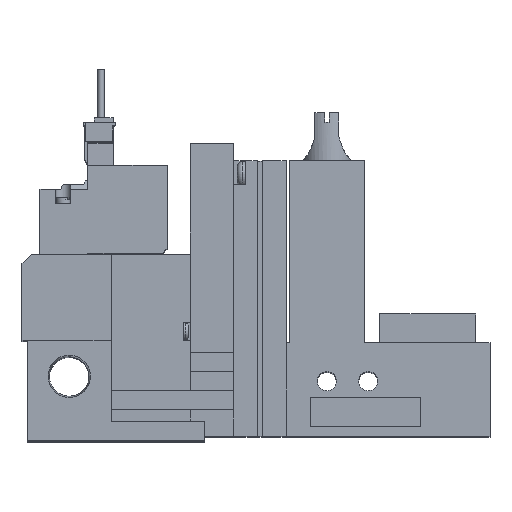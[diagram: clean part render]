
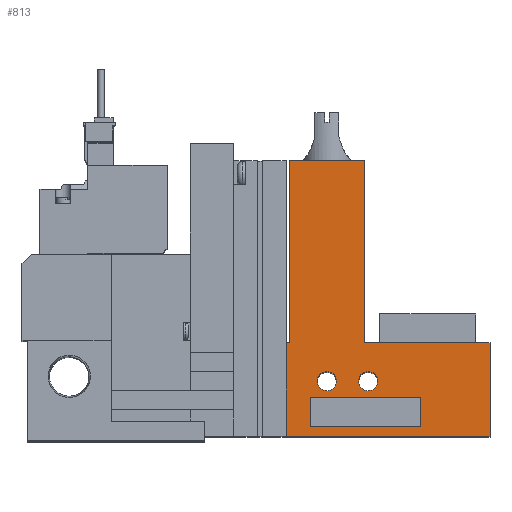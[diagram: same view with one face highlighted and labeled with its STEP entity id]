
A CAD part, top view. The second image highlights one B-rep face of the part: STEP entity #813.
In plain terms, the highlighted planar face has unit normal (0, 0, 1).
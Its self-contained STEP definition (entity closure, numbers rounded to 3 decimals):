
#813=ADVANCED_FACE('',(#1598,#1599,#1600,#1601),#1602,.T.);
#1598=FACE_BOUND('',#2722,.T.);
#1599=FACE_BOUND('',#2723,.T.);
#1600=FACE_BOUND('',#2724,.T.);
#1601=FACE_OUTER_BOUND('',#2725,.T.);
#1602=PLANE('',#2726);
#2722=EDGE_LOOP('',(#5498,#5499,#5500,#5501));
#2723=EDGE_LOOP('',(#5502));
#2724=EDGE_LOOP('',(#5503));
#2725=EDGE_LOOP('',(#5504,#5505,#5506,#5507,#5508,#5509,#5510,#5511));
#2726=AXIS2_PLACEMENT_3D('',#5512,#5513,#5514);
#5498=ORIENTED_EDGE('',*,*,#7678,.T.);
#5499=ORIENTED_EDGE('',*,*,#7653,.T.);
#5500=ORIENTED_EDGE('',*,*,#7796,.T.);
#5501=ORIENTED_EDGE('',*,*,#7797,.T.);
#5502=ORIENTED_EDGE('',*,*,#7770,.T.);
#5503=ORIENTED_EDGE('',*,*,#7798,.T.);
#5504=ORIENTED_EDGE('',*,*,#7799,.F.);
#5505=ORIENTED_EDGE('',*,*,#7723,.T.);
#5506=ORIENTED_EDGE('',*,*,#7800,.T.);
#5507=ORIENTED_EDGE('',*,*,#7801,.T.);
#5508=ORIENTED_EDGE('',*,*,#7802,.T.);
#5509=ORIENTED_EDGE('',*,*,#7803,.T.);
#5510=ORIENTED_EDGE('',*,*,#7775,.T.);
#5511=ORIENTED_EDGE('',*,*,#7804,.T.);
#5512=CARTESIAN_POINT('',(0.0,0.0,10.0));
#5513=DIRECTION('',(0.0,0.0,1.0));
#5514=DIRECTION('',(1.0,0.0,0.0));
#7653=EDGE_CURVE('',#9248,#9253,#9255,.T.);
#7678=EDGE_CURVE('',#9296,#9248,#9300,.T.);
#7723=EDGE_CURVE('',#9383,#9381,#9384,.T.);
#7770=EDGE_CURVE('',#9466,#9466,#9467,.T.);
#7775=EDGE_CURVE('',#9476,#9474,#9477,.T.);
#7796=EDGE_CURVE('',#9253,#9509,#9510,.T.);
#7797=EDGE_CURVE('',#9509,#9296,#9511,.T.);
#7798=EDGE_CURVE('',#9512,#9512,#9513,.T.);
#7799=EDGE_CURVE('',#9383,#9514,#9515,.T.);
#7800=EDGE_CURVE('',#9381,#9516,#9517,.T.);
#7801=EDGE_CURVE('',#9516,#9518,#9519,.T.);
#7802=EDGE_CURVE('',#9518,#9520,#9521,.T.);
#7803=EDGE_CURVE('',#9520,#9476,#9522,.T.);
#7804=EDGE_CURVE('',#9474,#9514,#9523,.T.);
#9248=VERTEX_POINT('',#11874);
#9253=VERTEX_POINT('',#11881);
#9255=LINE('',#11884,#11885);
#9296=VERTEX_POINT('',#11944);
#9300=LINE('',#11950,#11951);
#9381=VERTEX_POINT('',#12073);
#9383=VERTEX_POINT('',#12076);
#9384=LINE('',#12077,#12078);
#9466=VERTEX_POINT('',#12201);
#9467=CIRCLE('',#12202,2.0);
#9474=VERTEX_POINT('',#12212);
#9476=VERTEX_POINT('',#12215);
#9477=LINE('',#12216,#12217);
#9509=VERTEX_POINT('',#12267);
#9510=LINE('',#12268,#12269);
#9511=LINE('',#12270,#12271);
#9512=VERTEX_POINT('',#12272);
#9513=CIRCLE('',#12273,2.0);
#9514=VERTEX_POINT('',#12274);
#9515=LINE('',#12275,#12276);
#9516=VERTEX_POINT('',#12277);
#9517=LINE('',#12278,#12279);
#9518=VERTEX_POINT('',#12280);
#9519=LINE('',#12281,#12282);
#9520=VERTEX_POINT('',#12283);
#9521=LINE('',#12284,#12285);
#9522=LINE('',#12286,#12287);
#9523=LINE('',#12288,#12289);
#11874=CARTESIAN_POINT('',(60.1,8.0,10.0));
#11881=CARTESIAN_POINT('',(83.1,8.0,10.0));
#11884=CARTESIAN_POINT('',(0.0,8.0,10.0));
#11885=VECTOR('',#14190,1.0);
#11944=CARTESIAN_POINT('',(60.1,2.0,10.0));
#11950=CARTESIAN_POINT('',(60.1,0.0,10.0));
#11951=VECTOR('',#14223,1.0);
#12073=CARTESIAN_POINT('',(97.6,0.0,10.0));
#12076=CARTESIAN_POINT('',(55.1,0.0,10.0));
#12077=CARTESIAN_POINT('',(18.6,0.0,10.0));
#12078=VECTOR('',#14272,1.0);
#12201=CARTESIAN_POINT('',(65.6,11.5,10.0));
#12202=AXIS2_PLACEMENT_3D('',#14329,#14330,#14331);
#12212=CARTESIAN_POINT('',(55.75,19.5,10.0));
#12215=CARTESIAN_POINT('',(55.75,57.5,10.0));
#12216=CARTESIAN_POINT('',(55.75,57.5,10.0));
#12217=VECTOR('',#14336,1.0);
#12267=CARTESIAN_POINT('',(83.1,2.0,10.0));
#12268=CARTESIAN_POINT('',(83.1,0.0,10.0));
#12269=VECTOR('',#14361,1.0);
#12270=CARTESIAN_POINT('',(0.0,2.0,10.0));
#12271=VECTOR('',#14362,1.0);
#12272=CARTESIAN_POINT('',(74.2,11.5,10.0));
#12273=AXIS2_PLACEMENT_3D('',#14363,#14364,#14365);
#12274=CARTESIAN_POINT('',(55.1,19.5,10.0));
#12275=CARTESIAN_POINT('',(55.1,0.0,10.0));
#12276=VECTOR('',#14366,1.0);
#12277=CARTESIAN_POINT('',(97.6,19.5,10.0));
#12278=CARTESIAN_POINT('',(97.6,0.0,10.0));
#12279=VECTOR('',#14367,1.0);
#12280=CARTESIAN_POINT('',(71.45,19.5,10.0));
#12281=CARTESIAN_POINT('',(97.6,19.5,10.0));
#12282=VECTOR('',#14368,1.0);
#12283=CARTESIAN_POINT('',(71.45,57.5,10.0));
#12284=CARTESIAN_POINT('',(71.45,19.5,10.0));
#12285=VECTOR('',#14369,1.0);
#12286=CARTESIAN_POINT('',(71.45,57.5,10.0));
#12287=VECTOR('',#14370,1.0);
#12288=CARTESIAN_POINT('',(55.75,19.5,10.0));
#12289=VECTOR('',#14371,1.0);
#14190=DIRECTION('',(1.0,0.0,0.0));
#14223=DIRECTION('',(0.0,1.0,0.0));
#14272=DIRECTION('',(1.0,0.0,0.0));
#14329=CARTESIAN_POINT('',(63.6,11.5,10.0));
#14330=DIRECTION('',(0.0,0.0,-1.0));
#14331=DIRECTION('',(1.0,0.0,0.0));
#14336=DIRECTION('',(0.0,-1.0,0.0));
#14361=DIRECTION('',(0.0,-1.0,0.0));
#14362=DIRECTION('',(-1.0,0.0,0.0));
#14363=CARTESIAN_POINT('',(72.2,11.5,10.0));
#14364=DIRECTION('',(0.0,0.0,-1.0));
#14365=DIRECTION('',(1.0,0.0,0.0));
#14366=DIRECTION('',(0.0,1.0,0.0));
#14367=DIRECTION('',(0.0,1.0,0.0));
#14368=DIRECTION('',(-1.0,0.0,0.0));
#14369=DIRECTION('',(0.0,1.0,0.0));
#14370=DIRECTION('',(-1.0,0.0,0.0));
#14371=DIRECTION('',(-1.0,0.0,0.0));
